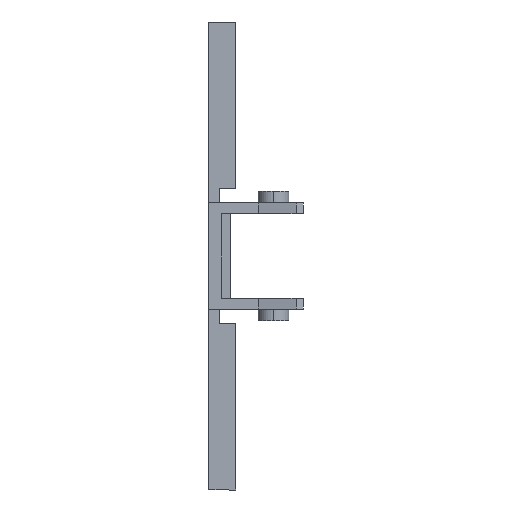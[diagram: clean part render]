
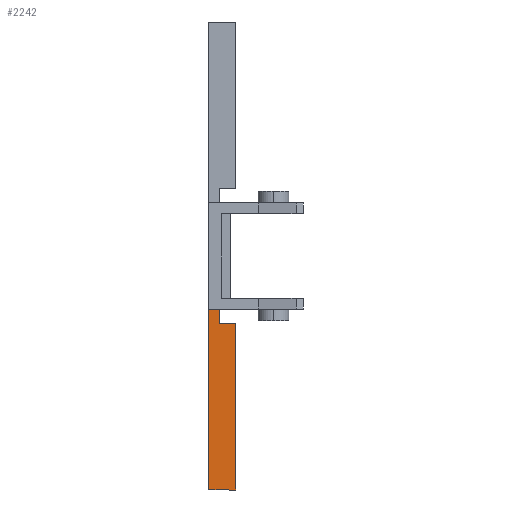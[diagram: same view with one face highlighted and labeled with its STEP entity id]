
A CAD part, front view. The second image highlights one B-rep face of the part: STEP entity #2242.
In plain terms, the highlighted planar face has unit normal (0, -1, 0).
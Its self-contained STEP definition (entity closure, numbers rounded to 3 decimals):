
#81 = VERTEX_POINT ( 'NONE', #284 ) ;
#83 = VERTEX_POINT ( 'NONE', #282 ) ;
#94 = VERTEX_POINT ( 'NONE', #271 ) ;
#101 = VERTEX_POINT ( 'NONE', #264 ) ;
#105 = VERTEX_POINT ( 'NONE', #260 ) ;
#109 = VERTEX_POINT ( 'NONE', #256 ) ;
#256 = CARTESIAN_POINT ( 'NONE',  ( 0., -9., -26. ) ) ;
#260 = CARTESIAN_POINT ( 'NONE',  ( 3., -9., -7.5 ) ) ;
#264 = CARTESIAN_POINT ( 'NONE',  ( 3., -9., -26. ) ) ;
#271 = CARTESIAN_POINT ( 'NONE',  ( 1.2, -9., -5.9 ) ) ;
#282 = CARTESIAN_POINT ( 'NONE',  ( 1.2, -9., -7.5 ) ) ;
#284 = CARTESIAN_POINT ( 'NONE',  ( 0., -9., -5.9 ) ) ;
#510 = CARTESIAN_POINT ( 'NONE',  ( 1.2, -9., -5. ) ) ;
#546 = DIRECTION ( 'NONE',  ( 1., 0., 0. ) ) ;
#547 = CARTESIAN_POINT ( 'NONE',  ( 3., -9., -26. ) ) ;
#548 = DIRECTION ( 'NONE',  ( 0., 0., 1. ) ) ;
#549 = DIRECTION ( 'NONE',  ( 0., 0., -1. ) ) ;
#550 = CARTESIAN_POINT ( 'NONE',  ( 0., -9., -26. ) ) ;
#574 = CARTESIAN_POINT ( 'NONE',  ( 1.2, -9., -5.9 ) ) ;
#603 = DIRECTION ( 'NONE',  ( -1., 0., 0. ) ) ;
#606 = CARTESIAN_POINT ( 'NONE',  ( 1.2, -9., -7.5 ) ) ;
#607 = DIRECTION ( 'NONE',  ( 1., 0., 0. ) ) ;
#706 = DIRECTION ( 'NONE',  ( 0., 0., 1. ) ) ;
#707 = CARTESIAN_POINT ( 'NONE',  ( 3., -9., -7.5 ) ) ;
#843 = PLANE ( 'NONE',  #1996 ) ;
#845 = DIRECTION ( 'NONE',  ( 0., 1., 0. ) ) ;
#846 = DIRECTION ( 'NONE',  ( 0., 0., 1. ) ) ;
#849 = CARTESIAN_POINT ( 'NONE',  ( 1.2, -9., -5. ) ) ;
#1233 = FACE_OUTER_BOUND ( 'NONE', #1779, .T. ) ;
#1341 = VECTOR ( 'NONE', #706, 1000. ) ;
#1342 = LINE ( 'NONE', #707, #1341 ) ;
#1460 = VECTOR ( 'NONE', #603, 1000. ) ;
#1461 = LINE ( 'NONE', #606, #1460 ) ;
#1462 = VECTOR ( 'NONE', #607, 1000. ) ;
#1463 = LINE ( 'NONE', #574, #1462 ) ;
#1510 = VECTOR ( 'NONE', #546, 1000. ) ;
#1511 = LINE ( 'NONE', #547, #1510 ) ;
#1513 = VECTOR ( 'NONE', #548, 1000. ) ;
#1514 = VECTOR ( 'NONE', #549, 1000. ) ;
#1515 = LINE ( 'NONE', #550, #1514 ) ;
#1540 = LINE ( 'NONE', #510, #1513 ) ;
#1779 = EDGE_LOOP ( 'NONE', ( #2310, #2314, #2315, #2316, #2311, #2312 ) ) ;
#1996 = AXIS2_PLACEMENT_3D ( 'NONE', #849, #845, #846 ) ;
#2034 = EDGE_CURVE ( 'NONE', #81, #109, #1515, .T. ) ;
#2037 = EDGE_CURVE ( 'NONE', #83, #94, #1540, .T. ) ;
#2039 = EDGE_CURVE ( 'NONE', #109, #101, #1511, .T. ) ;
#2074 = EDGE_CURVE ( 'NONE', #81, #94, #1463, .T. ) ;
#2075 = EDGE_CURVE ( 'NONE', #105, #83, #1461, .T. ) ;
#2162 = EDGE_CURVE ( 'NONE', #101, #105, #1342, .T. ) ;
#2242 = ADVANCED_FACE ( 'NONE', ( #1233 ), #843, .F. ) ;
#2310 = ORIENTED_EDGE ( 'NONE', *, *, #2074, .F. ) ;
#2311 = ORIENTED_EDGE ( 'NONE', *, *, #2075, .T. ) ;
#2312 = ORIENTED_EDGE ( 'NONE', *, *, #2037, .T. ) ;
#2314 = ORIENTED_EDGE ( 'NONE', *, *, #2034, .T. ) ;
#2315 = ORIENTED_EDGE ( 'NONE', *, *, #2039, .T. ) ;
#2316 = ORIENTED_EDGE ( 'NONE', *, *, #2162, .T. ) ;
